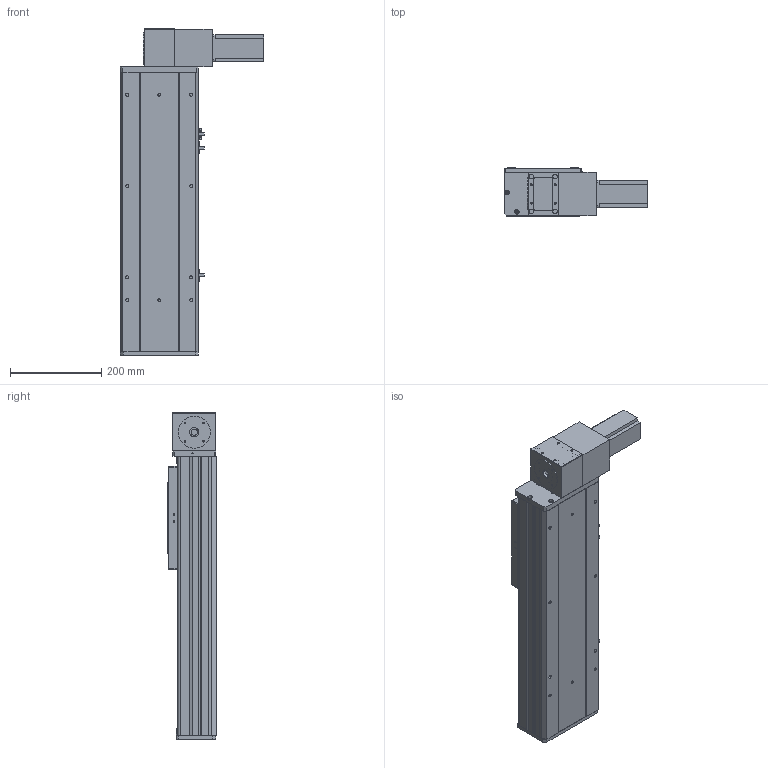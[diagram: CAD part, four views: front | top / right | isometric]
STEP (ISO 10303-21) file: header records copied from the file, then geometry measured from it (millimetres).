
FILE_DESCRIPTION (( 'STEP AP203' ), '1' );
FILE_NAME ('Y170CB-D105-S300-BD-P400W.STEP', '2020-02-20T08:08:25', ( '微软用户' ), ( '微软中国' ), 'SwSTEP 2.0', 'SolidWorks 2017', '' );
FILE_SCHEMA (( 'CONFIG_CONTROL_DESIGN' ));
Length unit declared in the file: millimetre
Products named in the file (16): Y170CB-陔俋离換覜結え---; --70CB --喘謫眊楊擘啣-; Y1埴倛裔; 70CB-耜裔啣-; 70B喘謫眊----; 70C--詩湍揤踡え-; 0B薊粣ん眊-400W--; 70CB--耜裔; Y170CB-D105-S300-BD-P400W; 70C-雄赽釱-奻-; 0C--雄赽釱俋欶-170; B-源倛裔啣; 70CB-詩湍--; san松下电机400不带刹车----; Y100-135俋离換覜ん--; 70CB-掛极-
Assembly tree (19 placements, depth 2):
  Y170CB-D105-S300-BD-P400W
    B-源倛裔啣
    san松下电机400不带刹车----
    70CB-掛极-
    --70CB --喘謫眊楊擘啣-
    70CB-耜裔啣-  x2
    70C--詩湍揤踡え-  x2
    70CB--耜裔
    70C-雄赽釱-奻-
    0C--雄赽釱俋欶-170
    70CB-詩湍--
    Y100-135俋离換覜ん--  x3
    Y170CB-陔俋离換覜結え---
    Y1埴倛裔
    70B喘謫眊----
    0B薊粣ん眊-400W--
Bounding box: 313.5 x 107 x 716 mm (x, y, z)
Volume: 4070094 mm3; surface area: 1312541 mm2
Topology: 19 solids, 19 shells, 896 faces, 2354 edges, 1560 vertices
Faces by surface type: cylinder 450, plane 422, cone 24
Entity records: 27843 total; most frequent: CARTESIAN_POINT 5146, DIRECTION 4527, ORIENTED_EDGE 4190, EDGE_CURVE 2095, AXIS2_PLACEMENT_3D 1661, VERTEX_POINT 1390, VECTOR 1205, LINE 1205
